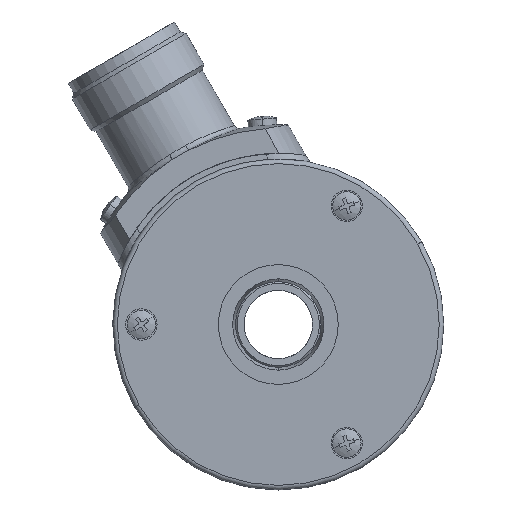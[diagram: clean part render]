
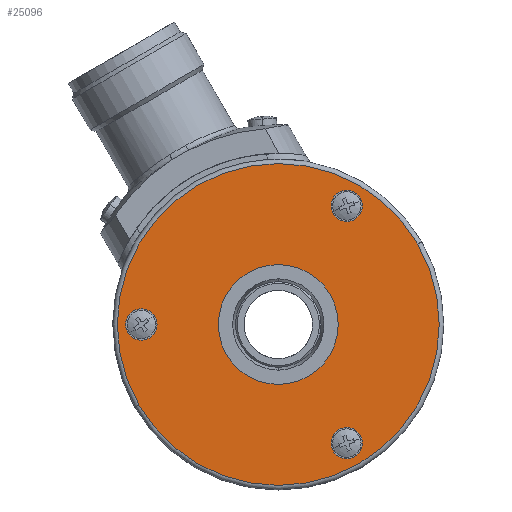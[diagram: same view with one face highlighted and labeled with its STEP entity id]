
A CAD part, left-side view. The second image highlights one B-rep face of the part: STEP entity #25096.
In plain terms, the highlighted planar face has unit normal (-1, 0, 0).
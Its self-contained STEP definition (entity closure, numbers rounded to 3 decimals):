
#2482 = DIRECTION ( 'NONE',  ( 0., -0.866, 0.5 ) ) ;
#2483 = DIRECTION ( 'NONE',  ( -1., 0., 0. ) ) ;
#2484 = CARTESIAN_POINT ( 'NONE',  ( 0., 0., 0. ) ) ;
#2485 = AXIS2_PLACEMENT_3D ( 'NONE', #2484, #2483, #2482 ) ;
#2486 = CIRCLE ( 'NONE', #2485, 28.2 ) ;
#2488 = CARTESIAN_POINT ( 'NONE',  ( 0., 24.422, -14.1 ) ) ;
#2611 = CARTESIAN_POINT ( 'NONE',  ( 0., -24.422, 14.1 ) ) ;
#3127 = CARTESIAN_POINT ( 'NONE',  ( 0., -9.618, 19.41 ) ) ;
#3162 = CARTESIAN_POINT ( 'NONE',  ( 0., -14.382, 22.16 ) ) ;
#3163 = DIRECTION ( 'NONE',  ( 0., 0.866, 0.5 ) ) ;
#3164 = DIRECTION ( 'NONE',  ( -1., 0., 0. ) ) ;
#3165 = CARTESIAN_POINT ( 'NONE',  ( 0., -12., 20.785 ) ) ;
#3166 = AXIS2_PLACEMENT_3D ( 'NONE', #3165, #3164, #3163 ) ;
#3167 = CIRCLE ( 'NONE', #3166, 2.75 ) ;
#3253 = CARTESIAN_POINT ( 'NONE',  ( 0., 21.618, 1.375 ) ) ;
#3254 = DIRECTION ( 'NONE',  ( 0., 0., -1. ) ) ;
#3255 = DIRECTION ( 'NONE',  ( -1., 0., 0. ) ) ;
#3256 = AXIS2_PLACEMENT_3D ( 'NONE', #3263, #3255, #3254 ) ;
#3257 = CIRCLE ( 'NONE', #3256, 2.75 ) ;
#3263 = CARTESIAN_POINT ( 'NONE',  ( 0., 24., 0. ) ) ;
#3264 = CARTESIAN_POINT ( 'NONE',  ( 0., 26.382, -1.375 ) ) ;
#3409 = CARTESIAN_POINT ( 'NONE',  ( 0., -14.382, -19.41 ) ) ;
#3410 = DIRECTION ( 'NONE',  ( 0., -0.866, 0.5 ) ) ;
#3411 = DIRECTION ( 'NONE',  ( -1., 0., 0. ) ) ;
#3412 = CARTESIAN_POINT ( 'NONE',  ( 0., -12., -20.785 ) ) ;
#3413 = AXIS2_PLACEMENT_3D ( 'NONE', #3412, #3411, #3410 ) ;
#3414 = CIRCLE ( 'NONE', #3413, 2.75 ) ;
#3420 = CARTESIAN_POINT ( 'NONE',  ( 0., -9.618, -22.16 ) ) ;
#3791 = CARTESIAN_POINT ( 'NONE',  ( 0., 9.093, -5.25 ) ) ;
#3808 = CARTESIAN_POINT ( 'NONE',  ( 0., 0., 0. ) ) ;
#3809 = AXIS2_PLACEMENT_3D ( 'NONE', #3808, #3870, #3869 ) ;
#3814 = CIRCLE ( 'NONE', #3809, 10.5 ) ;
#3868 = CARTESIAN_POINT ( 'NONE',  ( 0., -9.093, 5.25 ) ) ;
#3869 = DIRECTION ( 'NONE',  ( 0., -0.866, 0.5 ) ) ;
#3870 = DIRECTION ( 'NONE',  ( -1., 0., 0. ) ) ;
#5710 = FACE_BOUND ( 'NONE', #25190, .T. ) ;
#5711 = FACE_BOUND ( 'NONE', #25181, .T. ) ;
#5712 = FACE_BOUND ( 'NONE', #25171, .T. ) ;
#5713 = FACE_BOUND ( 'NONE', #25113, .T. ) ;
#5718 = FACE_OUTER_BOUND ( 'NONE', #25099, .T. ) ;
#5745 = DIRECTION ( 'NONE',  ( 0., -0.866, 0.5 ) ) ;
#5746 = DIRECTION ( 'NONE',  ( -1., 0., 0. ) ) ;
#5747 = CARTESIAN_POINT ( 'NONE',  ( 0., -14.5, -25.115 ) ) ;
#5748 = AXIS2_PLACEMENT_3D ( 'NONE', #5747, #5746, #5745 ) ;
#5749 = PLANE ( 'NONE',  #5748 ) ;
#5779 = DIRECTION ( 'NONE',  ( 0., -0.866, 0.5 ) ) ;
#5780 = DIRECTION ( 'NONE',  ( -1., 0., 0. ) ) ;
#5781 = CARTESIAN_POINT ( 'NONE',  ( 0., 0., 0. ) ) ;
#5782 = AXIS2_PLACEMENT_3D ( 'NONE', #5781, #5780, #5779 ) ;
#5786 = CIRCLE ( 'NONE', #5782, 28.2 ) ;
#5819 = DIRECTION ( 'NONE',  ( 0., 0.866, 0.5 ) ) ;
#5820 = DIRECTION ( 'NONE',  ( -1., 0., 0. ) ) ;
#5821 = CARTESIAN_POINT ( 'NONE',  ( 0., -12., 20.785 ) ) ;
#5822 = AXIS2_PLACEMENT_3D ( 'NONE', #5821, #5820, #5819 ) ;
#5823 = CIRCLE ( 'NONE', #5822, 2.75 ) ;
#5840 = CARTESIAN_POINT ( 'NONE',  ( 0., 24., 0. ) ) ;
#5845 = CIRCLE ( 'NONE', #5895, 2.75 ) ;
#5887 = DIRECTION ( 'NONE',  ( 0., -0.866, 0.5 ) ) ;
#5888 = DIRECTION ( 'NONE',  ( -1., 0., 0. ) ) ;
#5889 = CARTESIAN_POINT ( 'NONE',  ( 0., -12., -20.785 ) ) ;
#5890 = AXIS2_PLACEMENT_3D ( 'NONE', #5889, #5888, #5887 ) ;
#5891 = CIRCLE ( 'NONE', #5890, 2.75 ) ;
#5893 = DIRECTION ( 'NONE',  ( 0., 0., -1. ) ) ;
#5894 = DIRECTION ( 'NONE',  ( -1., 0., 0. ) ) ;
#5895 = AXIS2_PLACEMENT_3D ( 'NONE', #5840, #5894, #5893 ) ;
#5915 = DIRECTION ( 'NONE',  ( 0., -0.866, 0.5 ) ) ;
#5916 = DIRECTION ( 'NONE',  ( -1., 0., 0. ) ) ;
#5917 = CARTESIAN_POINT ( 'NONE',  ( 0., 0., 0. ) ) ;
#5918 = AXIS2_PLACEMENT_3D ( 'NONE', #5917, #5916, #5915 ) ;
#5919 = CIRCLE ( 'NONE', #5918, 10.5 ) ;
#23547 = VERTEX_POINT ( 'NONE', #2488 ) ;
#23553 = EDGE_CURVE ( 'NONE', #23603, #23547, #2486, .T. ) ;
#23603 = VERTEX_POINT ( 'NONE', #2611 ) ;
#23843 = VERTEX_POINT ( 'NONE', #3127 ) ;
#23853 = EDGE_CURVE ( 'NONE', #23843, #23857, #3167, .T. ) ;
#23857 = VERTEX_POINT ( 'NONE', #3162 ) ;
#23904 = VERTEX_POINT ( 'NONE', #3264 ) ;
#23918 = EDGE_CURVE ( 'NONE', #23904, #23919, #3257, .T. ) ;
#23919 = VERTEX_POINT ( 'NONE', #3253 ) ;
#23961 = VERTEX_POINT ( 'NONE', #3420 ) ;
#23978 = EDGE_CURVE ( 'NONE', #23961, #23980, #3414, .T. ) ;
#23980 = VERTEX_POINT ( 'NONE', #3409 ) ;
#24147 = VERTEX_POINT ( 'NONE', #3791 ) ;
#24158 = EDGE_CURVE ( 'NONE', #24147, #24161, #3814, .T. ) ;
#24161 = VERTEX_POINT ( 'NONE', #3868 ) ;
#25096 = ADVANCED_FACE ( 'NONE', ( #5718, #5713, #5712, #5711, #5710 ), #5749, .T. ) ;
#25099 = EDGE_LOOP ( 'NONE', ( #25101, #25106 ) ) ;
#25101 = ORIENTED_EDGE ( 'NONE', *, *, #23553, .T. ) ;
#25106 = ORIENTED_EDGE ( 'NONE', *, *, #25111, .T. ) ;
#25111 = EDGE_CURVE ( 'NONE', #23547, #23603, #5786, .T. ) ;
#25113 = EDGE_LOOP ( 'NONE', ( #25120, #25166 ) ) ;
#25120 = ORIENTED_EDGE ( 'NONE', *, *, #25163, .F. ) ;
#25163 = EDGE_CURVE ( 'NONE', #23857, #23843, #5823, .T. ) ;
#25166 = ORIENTED_EDGE ( 'NONE', *, *, #23853, .F. ) ;
#25171 = EDGE_LOOP ( 'NONE', ( #25174, #25179 ) ) ;
#25174 = ORIENTED_EDGE ( 'NONE', *, *, #25176, .F. ) ;
#25176 = EDGE_CURVE ( 'NONE', #23919, #23904, #5845, .T. ) ;
#25179 = ORIENTED_EDGE ( 'NONE', *, *, #23918, .F. ) ;
#25181 = EDGE_LOOP ( 'NONE', ( #25183, #25188 ) ) ;
#25183 = ORIENTED_EDGE ( 'NONE', *, *, #25186, .F. ) ;
#25186 = EDGE_CURVE ( 'NONE', #23980, #23961, #5891, .T. ) ;
#25188 = ORIENTED_EDGE ( 'NONE', *, *, #23978, .F. ) ;
#25190 = EDGE_LOOP ( 'NONE', ( #25196, #25203 ) ) ;
#25196 = ORIENTED_EDGE ( 'NONE', *, *, #25220, .F. ) ;
#25203 = ORIENTED_EDGE ( 'NONE', *, *, #24158, .F. ) ;
#25220 = EDGE_CURVE ( 'NONE', #24161, #24147, #5919, .T. ) ;
